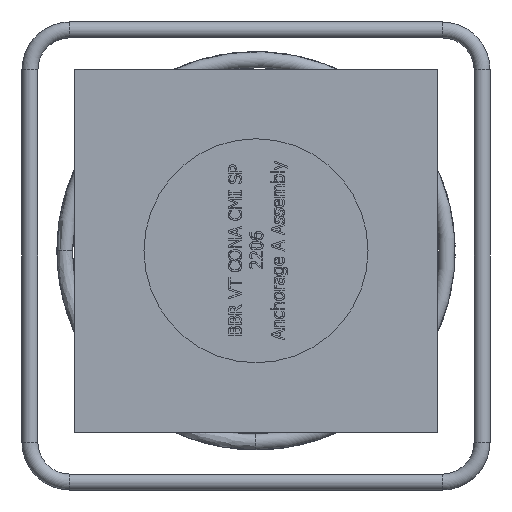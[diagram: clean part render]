
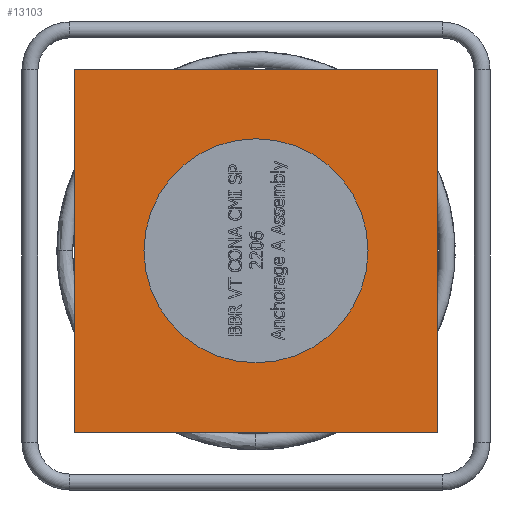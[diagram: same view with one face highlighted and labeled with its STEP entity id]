
A CAD part, left-side view. The second image highlights one B-rep face of the part: STEP entity #13103.
In plain terms, the highlighted planar face has unit normal (-1, 0, 0).
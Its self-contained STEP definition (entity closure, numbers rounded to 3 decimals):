
#1974=LINE('',#27018,#3033);
#1978=LINE('',#27025,#3037);
#1981=LINE('',#27030,#3040);
#1984=LINE('',#27034,#3043);
#3033=VECTOR('',#15568,365.);
#3037=VECTOR('',#15574,365.);
#3040=VECTOR('',#15579,365.);
#3043=VECTOR('',#15584,365.);
#3356=PLANE('',#13585);
#3534=FACE_BOUND('',#5060,.T.);
#4234=FACE_OUTER_BOUND('',#5059,.T.);
#5059=EDGE_LOOP('',(#11625,#11626,#11627,#11628));
#5060=EDGE_LOOP('',(#11629));
#5152=CIRCLE('',#13547,112.5);
#6341=VERTEX_POINT('',#23114);
#6366=VERTEX_POINT('',#27016);
#6367=VERTEX_POINT('',#27017);
#6369=VERTEX_POINT('',#27024);
#6370=VERTEX_POINT('',#27029);
#8091=EDGE_CURVE('',#6341,#6341,#5152,.T.);
#8118=EDGE_CURVE('',#6366,#6367,#1974,.T.);
#8122=EDGE_CURVE('',#6367,#6369,#1978,.T.);
#8125=EDGE_CURVE('',#6369,#6370,#1981,.T.);
#8128=EDGE_CURVE('',#6370,#6366,#1984,.T.);
#11625=ORIENTED_EDGE('',*,*,#8128,.T.);
#11626=ORIENTED_EDGE('',*,*,#8118,.T.);
#11627=ORIENTED_EDGE('',*,*,#8122,.T.);
#11628=ORIENTED_EDGE('',*,*,#8125,.T.);
#11629=ORIENTED_EDGE('',*,*,#8091,.T.);
#13103=ADVANCED_FACE('',(#4234,#3534),#3356,.T.);
#13547=AXIS2_PLACEMENT_3D('',#23115,#15492,#15493);
#13585=AXIS2_PLACEMENT_3D('',#27036,#15586,#15587);
#15492=DIRECTION('center_axis',(1.,0.,0.));
#15493=DIRECTION('ref_axis',(0.,0.,1.));
#15568=DIRECTION('',(0.,0.,-1.));
#15574=DIRECTION('',(0.,-1.,0.));
#15579=DIRECTION('',(0.,0.,1.));
#15584=DIRECTION('',(0.,1.,0.));
#15586=DIRECTION('center_axis',(-1.,0.,0.));
#15587=DIRECTION('ref_axis',(0.,0.,-1.));
#23114=CARTESIAN_POINT('',(-112.151,-112.5,5.253));
#23115=CARTESIAN_POINT('Origin',(-112.151,0.,
5.253));
#27016=CARTESIAN_POINT('',(-112.151,182.5,187.753));
#27017=CARTESIAN_POINT('',(-112.151,182.5,-177.247));
#27018=CARTESIAN_POINT('',(-112.151,182.5,187.753));
#27024=CARTESIAN_POINT('',(-112.151,-182.5,-177.247));
#27025=CARTESIAN_POINT('',(-112.151,182.5,-177.247));
#27029=CARTESIAN_POINT('',(-112.151,-182.5,187.753));
#27030=CARTESIAN_POINT('',(-112.151,-182.5,-177.247));
#27034=CARTESIAN_POINT('',(-112.151,-182.5,187.753));
#27036=CARTESIAN_POINT('Origin',(-112.151,0.,
5.253));
